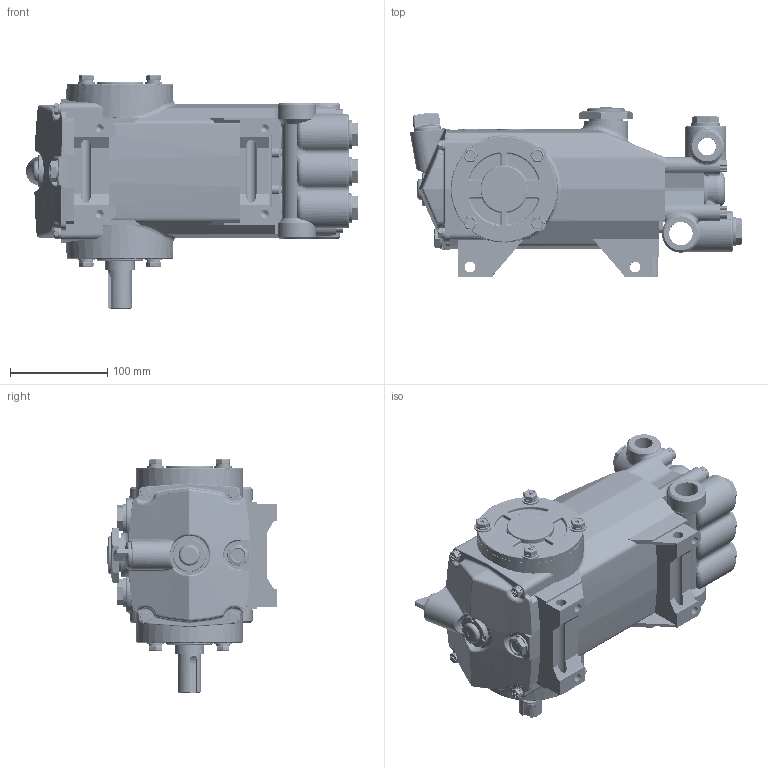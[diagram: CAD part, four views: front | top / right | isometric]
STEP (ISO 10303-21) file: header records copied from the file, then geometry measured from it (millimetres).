
FILE_DESCRIPTION (( 'STEP AP214' ), '1' );
FILE_NAME ('7CP 6111.STEP', '2013-01-21T13:20:30', ( '' ), ( '' ), 'SwSTEP 2.0', 'SolidWorks 2012', '' );
FILE_SCHEMA (( 'AUTOMOTIVE_DESIGN' ));
Length unit declared in the file: millimetre
Products named in the file (1): 7CP 6111
Bounding box: 341.55 x 174.57 x 240.55 mm (x, y, z)
Volume: 2854512.2 mm3; surface area: 513939.7 mm2
Topology: 1 solids, 37 shells, 6564 faces, 17649 edges, 11315 vertices
Faces by surface type: plane 3247, cylinder 1912, bspline 691, torus 418, cone 226, sphere 70
Entity records: 285879 total; most frequent: CARTESIAN_POINT 86812, ORIENTED_EDGE 35060, DIRECTION 28740, EDGE_CURVE 17530, VERTEX_POINT 11299, AXIS2_PLACEMENT_3D 10594, LINE 7552, VECTOR 7552
